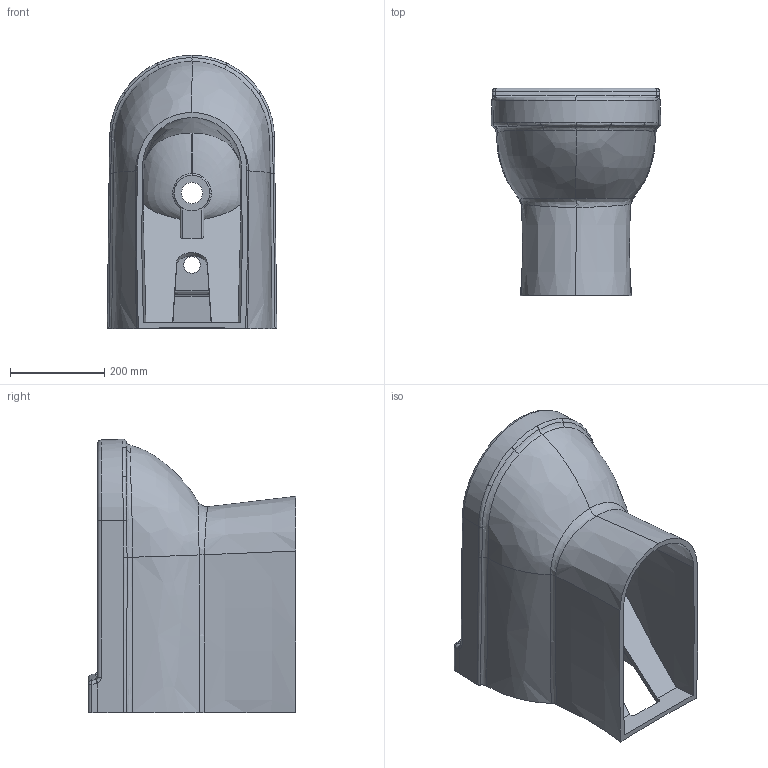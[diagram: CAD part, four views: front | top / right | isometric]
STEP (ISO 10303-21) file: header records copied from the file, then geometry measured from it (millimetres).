
FILE_DESCRIPTION (( 'STEP AP203' ), '1' );
FILE_NAME ('VT500.STEP', '2018-01-22T12:04:03', ( '' ), ( '' ), 'SwSTEP 2.0', 'SolidWorks 2017', '' );
FILE_SCHEMA (( 'CONFIG_CONTROL_DESIGN' ));
Products named in the file (1): VT500
Bounding box: 359.53 x 440.09 x 579.64 mm (x, y, z)
Volume: 17774870.5 mm3; surface area: 1503777.1 mm2
Topology: 1 solids, 1 shells, 184 faces, 529 edges, 338 vertices
Faces by surface type: bspline 112, plane 34, cylinder 25, torus 7, cone 4, sphere 2
Entity records: 71138 total; most frequent: CARTESIAN_POINT 67331, ORIENTED_EDGE 1046, EDGE_CURVE 523, DIRECTION 388, B_SPLINE_CURVE_WITH_KNOTS 347, VERTEX_POINT 338, EDGE_LOOP 189, FACE_OUTER_BOUND 184
